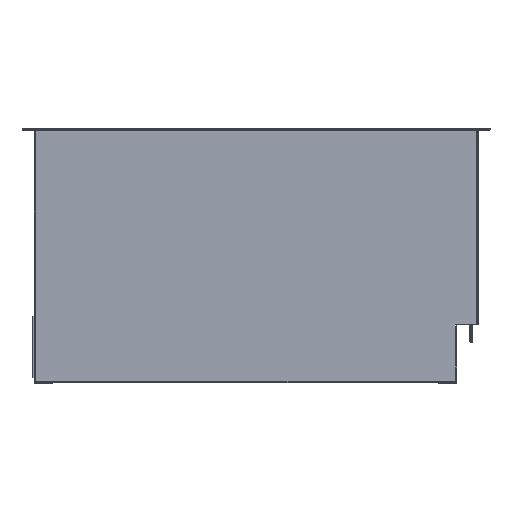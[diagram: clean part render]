
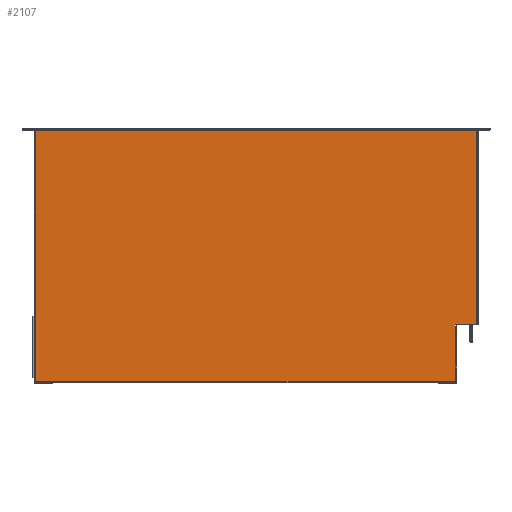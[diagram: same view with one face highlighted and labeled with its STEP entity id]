
A CAD part, front view. The second image highlights one B-rep face of the part: STEP entity #2107.
In plain terms, the highlighted planar face has unit normal (0, -1, -0.025) as drawn and (0, 0, -1) by its records, which use the part's own axes.
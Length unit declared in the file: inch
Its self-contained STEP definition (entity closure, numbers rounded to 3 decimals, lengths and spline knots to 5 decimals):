
#633 = LINE ( 'NONE', #10972, #11718 ) ;
#881 = DIRECTION ( 'NONE',  ( 1., 0., 0. ) ) ;
#1016 = LINE ( 'NONE', #13703, #11436 ) ;
#1433 = ORIENTED_EDGE ( 'NONE', *, *, #25281, .F. ) ;
#1482 = ORIENTED_EDGE ( 'NONE', *, *, #16686, .F. ) ;
#1648 = CARTESIAN_POINT ( 'NONE',  ( 34.85265, 2.68031, 0. ) ) ;
#2107 = ADVANCED_FACE ( 'NONE', ( #18019 ), #5836, .F. ) ;
#2162 = EDGE_CURVE ( 'NONE', #6659, #3742, #11261, .T. ) ;
#2317 = EDGE_CURVE ( 'NONE', #10591, #18724, #8648, .T. ) ;
#2381 = VECTOR ( 'NONE', #14537, 39.37008 ) ;
#2548 = DIRECTION ( 'NONE',  ( -1., 0., 0. ) ) ;
#2884 = LINE ( 'NONE', #17150, #24857 ) ;
#2985 = CARTESIAN_POINT ( 'NONE',  ( 10.99935, 42.64448, 0. ) ) ;
#2989 = EDGE_CURVE ( 'NONE', #3742, #18724, #13813, .T. ) ;
#3095 = CARTESIAN_POINT ( 'NONE',  ( 10.96346, 0.78968, 0. ) ) ;
#3246 = VERTEX_POINT ( 'NONE', #20689 ) ;
#3247 = DIRECTION ( 'NONE',  ( -1., 0., 0. ) ) ;
#3736 = CARTESIAN_POINT ( 'NONE',  ( 34.78205, 2.68031, 0. ) ) ;
#3742 = VERTEX_POINT ( 'NONE', #19762 ) ;
#4548 = EDGE_CURVE ( 'NONE', #24346, #12161, #16597, .T. ) ;
#4631 = EDGE_CURVE ( 'NONE', #19101, #22972, #20127, .T. ) ;
#5246 = CARTESIAN_POINT ( 'NONE',  ( 10.96346, 42.64448, 0. ) ) ;
#5686 = EDGE_CURVE ( 'NONE', #22972, #26692, #25301, .T. ) ;
#5836 = PLANE ( 'NONE',  #12628 ) ;
#5846 = DIRECTION ( 'NONE',  ( 0., 1., 0. ) ) ;
#6064 = CARTESIAN_POINT ( 'NONE',  ( 29.41765, 0.75516, 0. ) ) ;
#6216 = CARTESIAN_POINT ( 'NONE',  ( 10.99935, 42.72261, 0. ) ) ;
#6472 = ORIENTED_EDGE ( 'NONE', *, *, #26836, .T. ) ;
#6628 = VECTOR ( 'NONE', #20722, 39.37008 ) ;
#6659 = VERTEX_POINT ( 'NONE', #25794 ) ;
#6682 = ORIENTED_EDGE ( 'NONE', *, *, #2317, .T. ) ;
#6955 = VECTOR ( 'NONE', #12311, 39.37008 ) ;
#6998 = CARTESIAN_POINT ( 'NONE',  ( 34.76053, 2.80531, 0. ) ) ;
#7244 = CARTESIAN_POINT ( 'NONE',  ( 34.76053, 2.80531, 0. ) ) ;
#7298 = EDGE_CURVE ( 'NONE', #24346, #14749, #633, .T. ) ;
#7706 = VERTEX_POINT ( 'NONE', #18608 ) ;
#7846 = ORIENTED_EDGE ( 'NONE', *, *, #8950, .T. ) ;
#7994 = CARTESIAN_POINT ( 'NONE',  ( 34.76053, 42.666, 0. ) ) ;
#8648 = LINE ( 'NONE', #25384, #23129 ) ;
#8859 = VECTOR ( 'NONE', #5846, 39.37008 ) ;
#8950 = EDGE_CURVE ( 'NONE', #16980, #3246, #11254, .T. ) ;
#9063 = DIRECTION ( 'NONE',  ( 0., -1., 0. ) ) ;
#9213 = LINE ( 'NONE', #25319, #24362 ) ;
#9469 = ORIENTED_EDGE ( 'NONE', *, *, #5686, .F. ) ;
#9911 = DIRECTION ( 'NONE',  ( 1., 0., 0. ) ) ;
#10336 = EDGE_CURVE ( 'NONE', #17741, #6659, #24694, .T. ) ;
#10460 = VECTOR ( 'NONE', #881, 39.37008 ) ;
#10591 = VERTEX_POINT ( 'NONE', #7994 ) ;
#10867 = DIRECTION ( 'NONE',  ( 0., -1., 0. ) ) ;
#10972 = CARTESIAN_POINT ( 'NONE',  ( 10.96346, 2.68031, 0. ) ) ;
#11004 = LINE ( 'NONE', #6998, #20655 ) ;
#11037 = DIRECTION ( 'NONE',  ( 0., -1., 0. ) ) ;
#11077 = CARTESIAN_POINT ( 'NONE',  ( 34.85265, 0.75516, 0. ) ) ;
#11254 = LINE ( 'NONE', #12619, #16709 ) ;
#11261 = LINE ( 'NONE', #3736, #21540 ) ;
#11436 = VECTOR ( 'NONE', #3247, 39.37008 ) ;
#11643 = ORIENTED_EDGE ( 'NONE', *, *, #4631, .F. ) ;
#11718 = VECTOR ( 'NONE', #25390, 39.37008 ) ;
#11944 = CARTESIAN_POINT ( 'NONE',  ( 29.41765, 2.71156, 0. ) ) ;
#12161 = VERTEX_POINT ( 'NONE', #22720 ) ;
#12311 = DIRECTION ( 'NONE',  ( 0., -1., 0. ) ) ;
#12619 = CARTESIAN_POINT ( 'NONE',  ( 34.85265, 2.76816, 0. ) ) ;
#12628 = AXIS2_PLACEMENT_3D ( 'NONE', #1648, #26434, #9911 ) ;
#12815 = ORIENTED_EDGE ( 'NONE', *, *, #13856, .T. ) ;
#13105 = VERTEX_POINT ( 'NONE', #13124 ) ;
#13124 = CARTESIAN_POINT ( 'NONE',  ( 29.54265, 2.78968, 0. ) ) ;
#13128 = VECTOR ( 'NONE', #16088, 39.37008 ) ;
#13131 = LINE ( 'NONE', #20552, #6955 ) ;
#13232 = EDGE_LOOP ( 'NONE', ( #11643, #1482, #12815, #17466, #16481, #16755, #1433, #6682, #21132, #15016, #20350, #6472, #7846, #22708, #18300, #9469 ) ) ;
#13668 = EDGE_CURVE ( 'NONE', #13105, #3246, #13131, .T. ) ;
#13703 = CARTESIAN_POINT ( 'NONE',  ( 34.85265, 42.666, 0. ) ) ;
#13813 = LINE ( 'NONE', #14045, #24075 ) ;
#13856 = EDGE_CURVE ( 'NONE', #7706, #14749, #9213, .T. ) ;
#13947 = VERTEX_POINT ( 'NONE', #25316 ) ;
#14045 = CARTESIAN_POINT ( 'NONE',  ( 34.85265, 42.62886, 0. ) ) ;
#14047 = VECTOR ( 'NONE', #15227, 39.37008 ) ;
#14050 = CARTESIAN_POINT ( 'NONE',  ( 34.85265, 2.80531, 0. ) ) ;
#14537 = DIRECTION ( 'NONE',  ( 0., -1., 0. ) ) ;
#14575 = CARTESIAN_POINT ( 'NONE',  ( 10.99935, 0.75516, 0. ) ) ;
#14749 = VERTEX_POINT ( 'NONE', #3095 ) ;
#15016 = ORIENTED_EDGE ( 'NONE', *, *, #2162, .F. ) ;
#15227 = DIRECTION ( 'NONE',  ( 1., 0., 0. ) ) ;
#16088 = DIRECTION ( 'NONE',  ( 1., 0., 0. ) ) ;
#16236 = DIRECTION ( 'NONE',  ( 0., 1., 0. ) ) ;
#16255 = DIRECTION ( 'NONE',  ( -1., 0., 0. ) ) ;
#16481 = ORIENTED_EDGE ( 'NONE', *, *, #4548, .T. ) ;
#16597 = LINE ( 'NONE', #2985, #10460 ) ;
#16608 = CARTESIAN_POINT ( 'NONE',  ( 34.76053, 2.76816, 0. ) ) ;
#16686 = EDGE_CURVE ( 'NONE', #7706, #19101, #2884, .T. ) ;
#16709 = VECTOR ( 'NONE', #24922, 39.37008 ) ;
#16755 = ORIENTED_EDGE ( 'NONE', *, *, #23708, .F. ) ;
#16980 = VERTEX_POINT ( 'NONE', #16608 ) ;
#17150 = CARTESIAN_POINT ( 'NONE',  ( 10.99935, -1.00147, 0. ) ) ;
#17466 = ORIENTED_EDGE ( 'NONE', *, *, #7298, .F. ) ;
#17741 = VERTEX_POINT ( 'NONE', #7244 ) ;
#18019 = FACE_OUTER_BOUND ( 'NONE', #13232, .T. ) ;
#18300 = ORIENTED_EDGE ( 'NONE', *, *, #23715, .T. ) ;
#18608 = CARTESIAN_POINT ( 'NONE',  ( 10.99935, 0.78968, 0. ) ) ;
#18667 = CARTESIAN_POINT ( 'NONE',  ( 29.41765, 2.78968, 0. ) ) ;
#18724 = VERTEX_POINT ( 'NONE', #21766 ) ;
#18898 = LINE ( 'NONE', #6216, #2381 ) ;
#19101 = VERTEX_POINT ( 'NONE', #14575 ) ;
#19762 = CARTESIAN_POINT ( 'NONE',  ( 34.78205, 42.62886, 0. ) ) ;
#20127 = LINE ( 'NONE', #11077, #14047 ) ;
#20350 = ORIENTED_EDGE ( 'NONE', *, *, #10336, .F. ) ;
#20552 = CARTESIAN_POINT ( 'NONE',  ( 29.54265, 2.71156, 0. ) ) ;
#20655 = VECTOR ( 'NONE', #9063, 39.37008 ) ;
#20689 = CARTESIAN_POINT ( 'NONE',  ( 29.54265, 2.76816, 0. ) ) ;
#20722 = DIRECTION ( 'NONE',  ( -1., 0., 0. ) ) ;
#20865 = CARTESIAN_POINT ( 'NONE',  ( 29.41765, 2.78968, 0. ) ) ;
#21132 = ORIENTED_EDGE ( 'NONE', *, *, #2989, .F. ) ;
#21540 = VECTOR ( 'NONE', #16236, 39.37008 ) ;
#21766 = CARTESIAN_POINT ( 'NONE',  ( 34.76053, 42.62886, 0. ) ) ;
#22708 = ORIENTED_EDGE ( 'NONE', *, *, #13668, .F. ) ;
#22720 = CARTESIAN_POINT ( 'NONE',  ( 10.99935, 42.64448, 0. ) ) ;
#22972 = VERTEX_POINT ( 'NONE', #6064 ) ;
#23066 = LINE ( 'NONE', #18667, #6628 ) ;
#23129 = VECTOR ( 'NONE', #10867, 39.37008 ) ;
#23708 = EDGE_CURVE ( 'NONE', #13947, #12161, #18898, .T. ) ;
#23715 = EDGE_CURVE ( 'NONE', #13105, #26692, #23066, .T. ) ;
#24075 = VECTOR ( 'NONE', #16255, 39.37008 ) ;
#24346 = VERTEX_POINT ( 'NONE', #5246 ) ;
#24362 = VECTOR ( 'NONE', #2548, 39.37008 ) ;
#24694 = LINE ( 'NONE', #14050, #13128 ) ;
#24857 = VECTOR ( 'NONE', #11037, 39.37008 ) ;
#24922 = DIRECTION ( 'NONE',  ( -1., 0., 0. ) ) ;
#25281 = EDGE_CURVE ( 'NONE', #10591, #13947, #1016, .T. ) ;
#25301 = LINE ( 'NONE', #11944, #8859 ) ;
#25316 = CARTESIAN_POINT ( 'NONE',  ( 10.99935, 42.666, 0. ) ) ;
#25319 = CARTESIAN_POINT ( 'NONE',  ( 10.99935, 0.78968, 0. ) ) ;
#25384 = CARTESIAN_POINT ( 'NONE',  ( 34.76053, 42.62886, 0. ) ) ;
#25390 = DIRECTION ( 'NONE',  ( 0., -1., 0. ) ) ;
#25794 = CARTESIAN_POINT ( 'NONE',  ( 34.78205, 2.80531, 0. ) ) ;
#26434 = DIRECTION ( 'NONE',  ( 0., 0., 1. ) ) ;
#26692 = VERTEX_POINT ( 'NONE', #20865 ) ;
#26836 = EDGE_CURVE ( 'NONE', #17741, #16980, #11004, .T. ) ;
